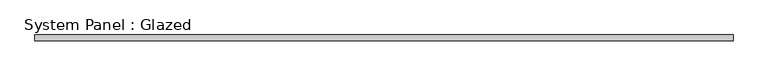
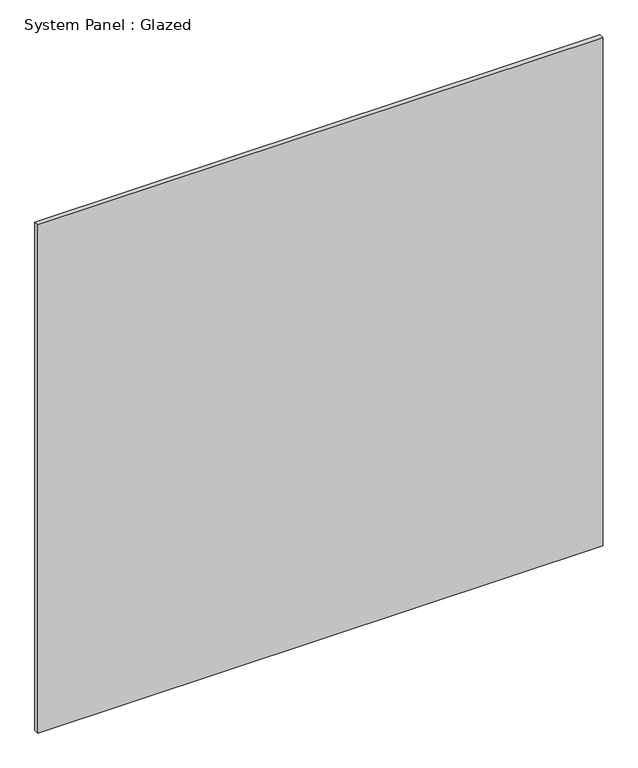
"""IFC4 building model written with IfcOpenShell, lengths in millimetres: plate geometry, System Panel : Glazed."""

from ifc_helpers import new_model, si_unit, origin, origin_with_axes, place, context, project, spatial, polyline, outline, extrude, source, transform, mapped, element, save


def system_panel_glazed_399b1310(model_context):
    return source(origin(), model_context, "Body", "SweptSolid", [
        extrude(outline(polyline([(1447.5, -49.5), (-1447.5, -49.5), (-1447.5, -24.5), (1447.5, -24.5), (1447.5, -49.5)])), origin_with_axes(), (0.0, 0.0, 1.0), 2750.0),
    ])


if __name__ == "__main__":
    model = new_model("IFC4")
    model_context = context("Model", 3, world=origin())
    ifc_project = project(units=[si_unit("LENGTHUNIT", "METRE", prefix="MILLI")], contexts=[model_context])
    site = spatial("IfcSite", under=ifc_project)
    building = spatial("IfcBuilding", under=site)
    placement = place(None, origin())
    system_panel_glazed_shape = system_panel_glazed_399b1310(model_context)
    element("IfcPlate", 1, ObjectType="System Panel : Glazed", at=placement, inside=building, context=model_context, shape_type="MappedRepresentation", body=[
        mapped(system_panel_glazed_shape, transform((0.0, 0.0, 0.0), x_axis=(1.0, 0.0, 0.0), y_axis=(0.0, 1.0, 0.0), z_axis=(0.0, 0.0, 1.0))),
    ])
    save(model, "model.ifc")
